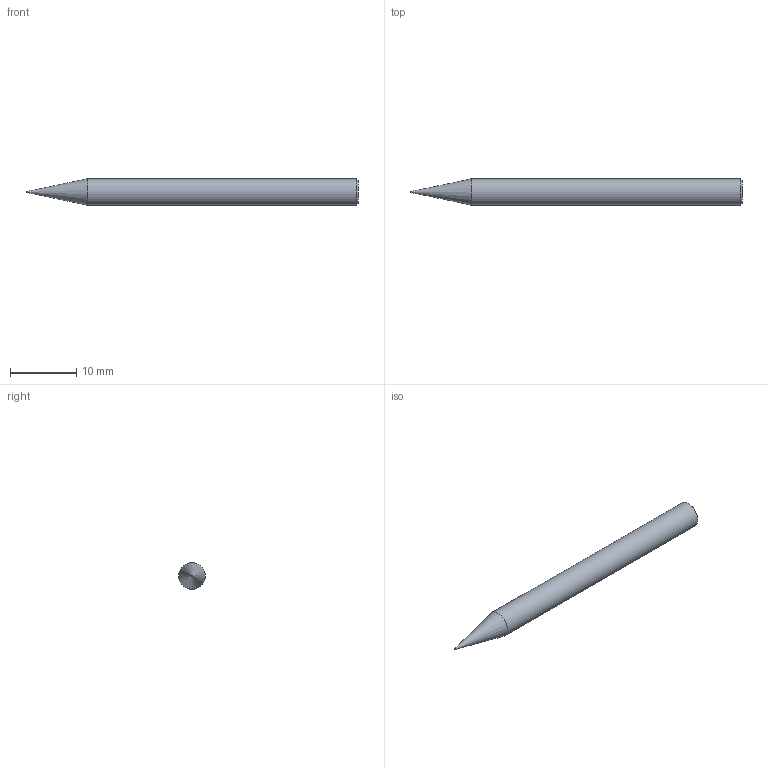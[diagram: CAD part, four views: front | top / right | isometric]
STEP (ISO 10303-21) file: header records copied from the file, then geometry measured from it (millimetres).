
FILE_DESCRIPTION(/* description */ (''),/* implementation_level */ '2;1');
FILE_NAME(/* name */ 'HSXB2001 0450.stp',/* time_stamp */ '2026-08-01T14:37:56+08:00',/* author */ (''),/* organization */ (''),/* preprocessor_version */ 'ST-DEVELOPER v16',/* originating_system */ 'SIEMENS PLM Software NX 10.0',/* authorisation */ '');
FILE_SCHEMA (('CONFIG_CONTROL_DESIGN'));
Length unit declared in the file: millimetre
Products named in the file (1): HSXB2001 0450_dxf
Bounding box: 50 x 4 x 4 mm (x, y, z)
Volume: 550.9 mm3; surface area: 583.3 mm2
Topology: 1 solids, 1 shells, 6 faces, 12 edges, 7 vertices
Faces by surface type: cylinder 2, cone 2, plane 1, sphere 1
Full cylindrical faces by diameter (mm): 0.1 x1, 4 x1
Entity records: 198 total; most frequent: DIRECTION 24, CARTESIAN_POINT 17, AXIS2_PLACEMENT_3D 12, EDGE_LOOP 10, ORIENTED_EDGE 10, FACE_BOUND 8, PERSON_AND_ORGANIZATION 7, ORGANIZATION 7
